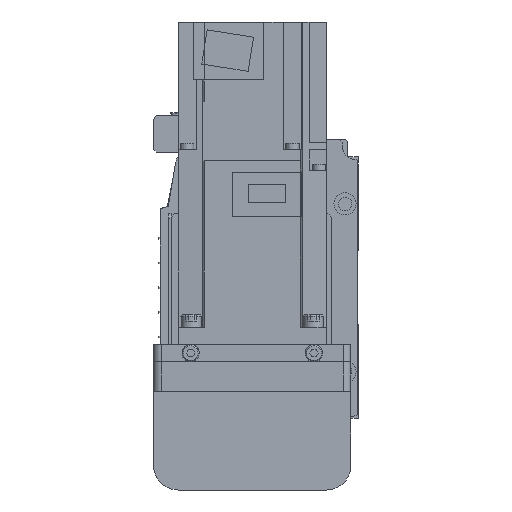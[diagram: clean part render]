
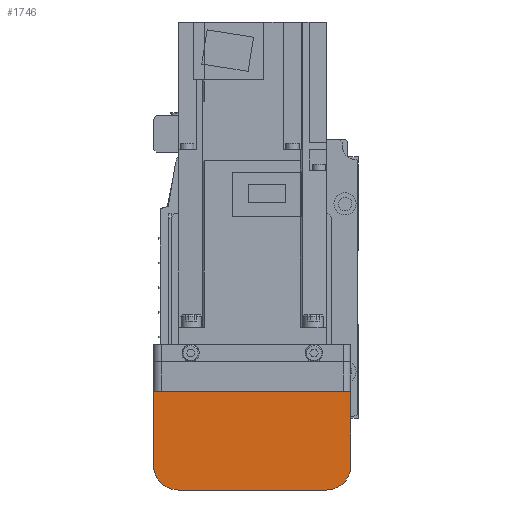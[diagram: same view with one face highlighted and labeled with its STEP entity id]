
A CAD part, left-side view. The second image highlights one B-rep face of the part: STEP entity #1746.
In plain terms, the highlighted planar face has unit normal (-1, 0, 0).
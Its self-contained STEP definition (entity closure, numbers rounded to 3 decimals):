
#1746 = ADVANCED_FACE( '', ( #3824 ), #3825, .F. );
#3824 = FACE_OUTER_BOUND( '', #6240, .T. );
#3825 = PLANE( '', #6241 );
#6240 = EDGE_LOOP( '', ( #11009, #11010, #11011, #11012, #11013, #11014 ) );
#6241 = AXIS2_PLACEMENT_3D( '', #11015, #11016, #11017 );
#11009 = ORIENTED_EDGE( '', *, *, #15553, .F. );
#11010 = ORIENTED_EDGE( '', *, *, #15554, .F. );
#11011 = ORIENTED_EDGE( '', *, *, #15555, .F. );
#11012 = ORIENTED_EDGE( '', *, *, #15556, .F. );
#11013 = ORIENTED_EDGE( '', *, *, #14176, .F. );
#11014 = ORIENTED_EDGE( '', *, *, #15322, .F. );
#11015 = CARTESIAN_POINT( '', ( -192., 37., 7. ) );
#11016 = DIRECTION( '', ( 1., 0., 0. ) );
#11017 = DIRECTION( '', ( 0., 0., -1. ) );
#14176 = EDGE_CURVE( '', #17036, #17038, #17039, .T. );
#15322 = EDGE_CURVE( '', #18846, #17036, #18848, .T. );
#15553 = EDGE_CURVE( '', #18336, #18846, #19144, .T. );
#15554 = EDGE_CURVE( '', #19145, #18336, #19146, .T. );
#15555 = EDGE_CURVE( '', #19147, #19145, #19148, .T. );
#15556 = EDGE_CURVE( '', #17038, #19147, #19149, .T. );
#17036 = VERTEX_POINT( '', #21016 );
#17038 = VERTEX_POINT( '', #21019 );
#17039 = CIRCLE( '', #21020, 10. );
#18336 = VERTEX_POINT( '', #22744 );
#18846 = VERTEX_POINT( '', #23446 );
#18848 = LINE( '', #23449, #23450 );
#19144 = LINE( '', #23849, #23850 );
#19145 = VERTEX_POINT( '', #23851 );
#19146 = LINE( '', #23852, #23853 );
#19147 = VERTEX_POINT( '', #23854 );
#19148 = CIRCLE( '', #23855, 10. );
#19149 = LINE( '', #23856, #23857 );
#21016 = CARTESIAN_POINT( '', ( -192., -40., -42. ) );
#21019 = CARTESIAN_POINT( '', ( -192., -30., -52. ) );
#21020 = AXIS2_PLACEMENT_3D( '', #25381, #25382, #25383 );
#22744 = CARTESIAN_POINT( '', ( -192., 40., -12.1 ) );
#23446 = CARTESIAN_POINT( '', ( -192., -40., -12.1 ) );
#23449 = CARTESIAN_POINT( '', ( -192., -40., -12.1 ) );
#23450 = VECTOR( '', #26853, 1000. );
#23849 = CARTESIAN_POINT( '', ( -192., 50., -12.1 ) );
#23850 = VECTOR( '', #27089, 1000. );
#23851 = CARTESIAN_POINT( '', ( -192., 40., -42. ) );
#23852 = CARTESIAN_POINT( '', ( -192., 40., -42. ) );
#23853 = VECTOR( '', #27090, 1000. );
#23854 = CARTESIAN_POINT( '', ( -192., 30., -52. ) );
#23855 = AXIS2_PLACEMENT_3D( '', #27091, #27092, #27093 );
#23856 = CARTESIAN_POINT( '', ( -192., -30., -52. ) );
#23857 = VECTOR( '', #27094, 1000. );
#25381 = CARTESIAN_POINT( '', ( -192., -30., -42. ) );
#25382 = DIRECTION( '', ( 1., 0., 0. ) );
#25383 = DIRECTION( '', ( 0., 0., -1. ) );
#26853 = DIRECTION( '', ( 0., 0., -1. ) );
#27089 = DIRECTION( '', ( 0., -1., 0. ) );
#27090 = DIRECTION( '', ( 0., 0., 1. ) );
#27091 = CARTESIAN_POINT( '', ( -192., 30., -42. ) );
#27092 = DIRECTION( '', ( 1., 0., 0. ) );
#27093 = DIRECTION( '', ( 0., 0., -1. ) );
#27094 = DIRECTION( '', ( 0., 1., 0. ) );
